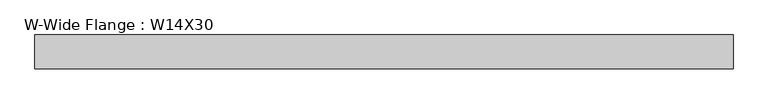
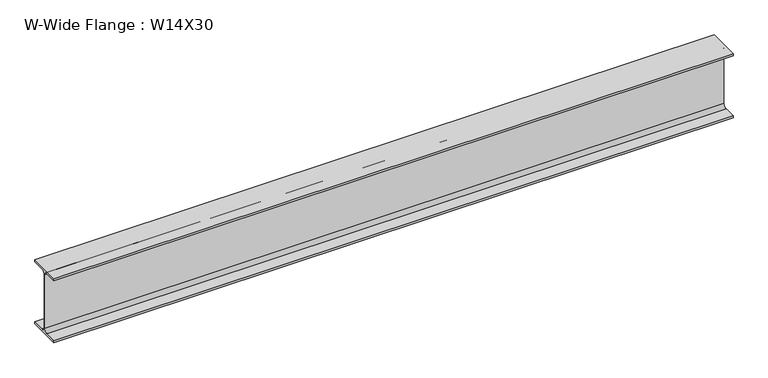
"""IFC4 building model written with IfcOpenShell, lengths in millimetres: beam geometry, W-Wide Flange : W14X30."""

from ifc_helpers import new_model, si_unit, point, frame, frame_2d, origin, place, context, project, spatial, polyline, circle_curve, trimmed, segment, composite_curve, outline, extrude, source, transform, mapped, element, save


def w_wide_flange_w14x30_0931c2c5(model_context):
    return source(origin(), model_context, "Body", "SweptSolid", [
        extrude(outline(composite_curve([segment(polyline([(85.471, -165.481), (85.471, -175.26), (-85.471, -175.26), (-85.471, -165.481), (-22.225, -165.481)]), True, "CONTINUOUS"), segment(trimmed(circle_curve(frame_2d((-22.225, -146.685)), 18.796), [point((-22.225, -165.481))], [point((-3.429, -146.685))], True, "CARTESIAN"), True, "CONTINUOUS"), segment(polyline([(-3.429, -146.685), (-3.429, 146.685)]), True, "CONTINUOUS"), segment(trimmed(circle_curve(frame_2d((-22.225, 146.685)), 18.796), [point((-3.429, 146.685))], [point((-22.225, 165.481))], True, "CARTESIAN"), True, "CONTINUOUS"), segment(polyline([(-22.225, 165.481), (-85.471, 165.481), (-85.471, 175.26), (85.471, 175.26), (85.471, 165.481), (22.225, 165.481)]), True, "CONTINUOUS"), segment(trimmed(circle_curve(frame_2d((22.225, 146.685)), 18.796), [point((22.225, 165.481))], [point((3.429, 146.685))], True, "CARTESIAN"), True, "CONTINUOUS"), segment(polyline([(3.429, 146.685), (3.429, -146.685)]), True, "CONTINUOUS"), segment(trimmed(circle_curve(frame_2d((22.225, -146.685)), 18.796), [point((3.429, -146.685))], [point((22.225, -165.481))], True, "CARTESIAN"), True, "CONTINUOUS"), segment(polyline([(22.225, -165.481), (85.471, -165.481)]), True, "CONTINUOUS")], self_intersect=False)), frame((-1863.3023799, 0.0, 0.0), z_axis=(1.0, 0.0, 0.0), x_axis=(0.0, 1.0, 0.0)), (0.0, 0.0, 1.0), 3521.1389716),
    ])


if __name__ == "__main__":
    model = new_model("IFC4")
    model_context = context("Model", 3, world=origin())
    ifc_project = project(units=[si_unit("LENGTHUNIT", "METRE", prefix="MILLI")], contexts=[model_context])
    site = spatial("IfcSite", under=ifc_project)
    building = spatial("IfcBuilding", under=site)
    placement = place(None, origin())
    w_wide_flange_w14x30_shape = w_wide_flange_w14x30_0931c2c5(model_context)
    element("IfcBeam", 1, ObjectType="W-Wide Flange : W14X30", at=placement, inside=building, context=model_context, shape_type="MappedRepresentation", body=[
        mapped(w_wide_flange_w14x30_shape, transform((0.0, 0.0, 0.0), x_axis=(1.0, 0.0, 0.0), y_axis=(0.0, 1.0, 0.0), z_axis=(0.0, 0.0, 1.0))),
    ])
    save(model, "model.ifc")
